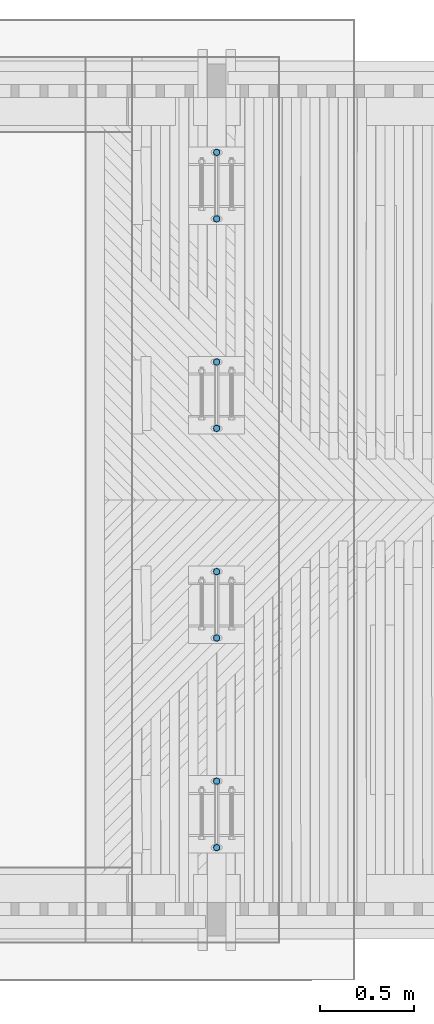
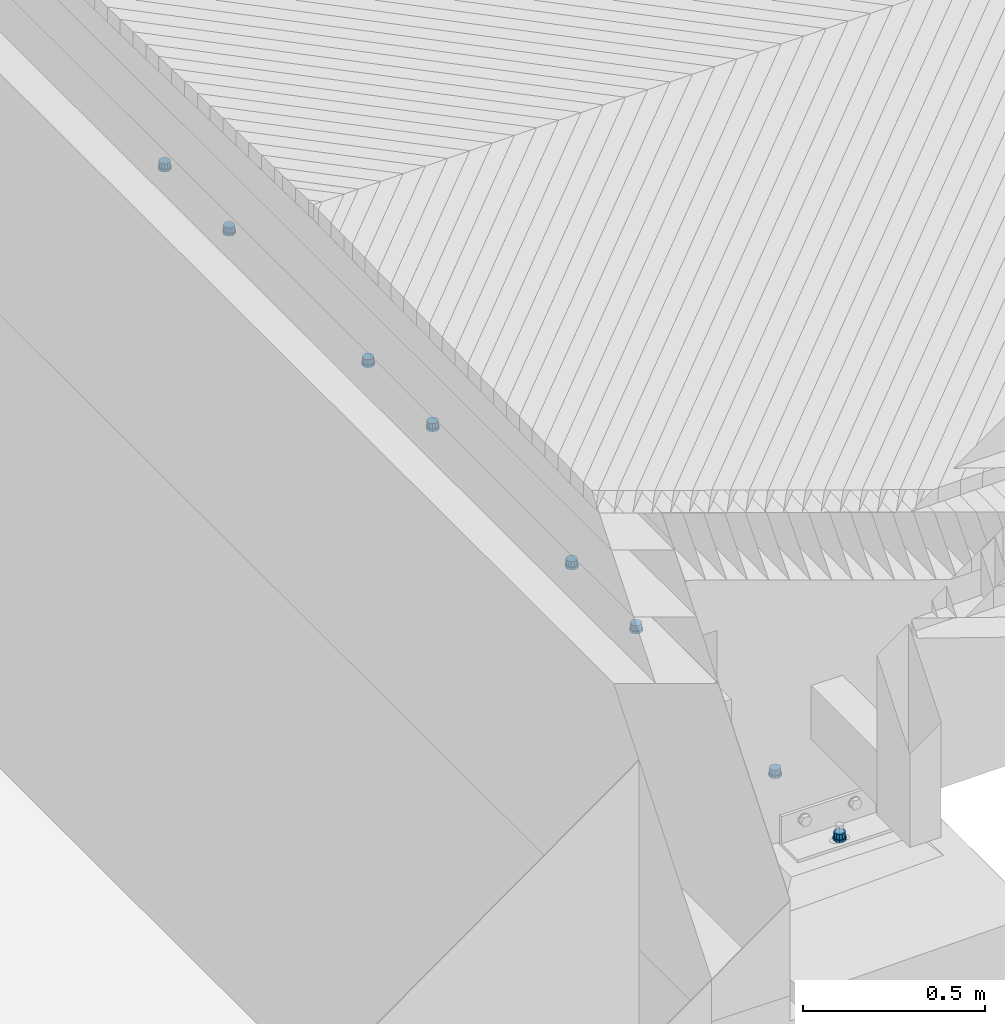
# One storey, part 14 of 52: 16 columns.
"""IFC2X3 building model written with IfcOpenShell, lengths in millimetres."""

from ifc_helpers import new_model, si_unit, frame, origin_with_axes, place, context, subcontext, project, spatial, faceted_brep, material, type_object, element, save


model = new_model("IFC2X3")

# Units and contexts
model_context = context("Model", 3, precision=1e-05, world=origin_with_axes())
body_context = subcontext(model_context, "Body", "Model", "MODEL_VIEW")
ifc_project = project(units=[si_unit("LENGTHUNIT", "METRE", prefix="MILLI"), si_unit("AREAUNIT", "SQUARE_METRE"), si_unit("VOLUMEUNIT", "CUBIC_METRE"), si_unit("MASSUNIT", "GRAM", prefix="KILO"), si_unit("TIMEUNIT", "SECOND"), si_unit("PLANEANGLEUNIT", "RADIAN"), si_unit("SOLIDANGLEUNIT", "STERADIAN"), si_unit("THERMODYNAMICTEMPERATUREUNIT", "DEGREE_CELSIUS"), si_unit("LUMINOUSINTENSITYUNIT", "LUMEN")], contexts=[model_context])

# Site, building, storey
site_placement = place(None, origin_with_axes())
site = spatial("IfcSite", under=ifc_project, at=site_placement, Name="Undefined", CompositionType="ELEMENT")
building_placement = place(site_placement, origin_with_axes())
building = spatial("IfcBuilding", under=site, at=building_placement, Name="Undefined", CompositionType="ELEMENT")
storey_placement = place(building_placement, origin_with_axes())
storey = spatial("IfcBuildingStorey", under=building, at=storey_placement, Name="Undefined", CompositionType="ELEMENT", Elevation=0.0)

# Columns
ifc_material = material(Name="STEEL/Steel_Undefined")
column_type_1 = type_object("IfcColumnType", Name="D38", PredefinedType="NOTDEFINED")
for number, where, z_axis, x_axis, name in (
    (1, (0.0, 2747.50000000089, 2007.32999999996), (0.0, 1.0, 0.0), (0.0, 0.0, 1.0), "BEAM"),
    (2, (0.0, 3102.50000000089, 2007.32999999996), (0.0, 1.0, 0.0), (0.0, 0.0, 1.0), "BEAM"),
    (3, (0.0, 3867.50000000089, 1985.32999999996), (0.0, 1.0, 0.0), (0.0, 0.0, 1.0), "BEAM"),
    (4, (0.0, 4222.50000000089, 1985.32999999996), (0.0, 1.0, 0.0), (0.0, 0.0, 1.0), "BEAM"),
    (5, (0.0, 1982.5, 2007.32999999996), (0.0, -1.0, 0.0), (0.0, 0.0, 1.0), "BEAM"),
    (6, (0.0, 1627.5, 2007.32999999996), (0.0, -1.0, 0.0), (0.0, 0.0, 1.0), "BEAM"),
    (7, (0.0, 862.5, 1985.32999999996), (0.0, -1.0, 0.0), (0.0, 0.0, 1.0), "BEAM"),
    (8, (0.0, 507.5, 1985.32999999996), (0.0, -1.0, 0.0), (0.0, 0.0, 1.0), "BEAM"),
):
    element("IfcColumn", number, at=place(storey_placement, frame(where, z_axis=z_axis, x_axis=x_axis)), inside=storey, type_object=column_type_1, material=ifc_material, Name=name, ObjectType="D38", context=body_context, shape_type="Brep", body=[
        faceted_brep([(0.0, -19.0, 0.0), (0.0, -16.4544826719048, -9.5), (8.0, -16.4544826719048, -9.5), (8.0, -19.0, 0.0), (0.0, -9.5, -16.4544826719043), (8.0, -9.5, -16.4544826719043), (0.0, 0.0, -19.0), (8.0, 0.0, -19.0), (0.0, 9.5, -16.4544826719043), (8.0, 9.5, -16.4544826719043), (0.0, 16.4544826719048, -9.5), (8.0, 16.4544826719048, -9.5), (0.0, 19.0, 0.0), (8.0, 19.0, 0.0), (0.0, 16.4544826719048, 9.5), (8.0, 16.4544826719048, 9.5), (0.0, 9.5, 16.4544826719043), (8.0, 9.5, 16.4544826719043), (0.0, 0.0, 19.0), (8.0, 0.0, 19.0), (0.0, -9.5, 16.4544826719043), (8.0, -9.5, 16.4544826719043), (0.0, -16.4544826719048, 9.5), (8.0, -16.4544826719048, 9.5)], [[[0, 1, 2, 3]], [[1, 4, 5, 2]], [[4, 6, 7, 5]], [[6, 8, 9, 7]], [[8, 10, 11, 9]], [[10, 12, 13, 11]], [[12, 14, 15, 13]], [[14, 16, 17, 15]], [[16, 18, 19, 17]], [[18, 20, 21, 19]], [[20, 22, 23, 21]], [[22, 0, 3, 23]], [[5, 7, 9, 11, 13, 15, 17, 19, 21, 23, 3, 2]], [[22, 20, 18, 16, 14, 12, 10, 8, 6, 4, 1, 0]]]),
    ])
column_type_2 = type_object("IfcColumnType", Name="D33", PredefinedType="NOTDEFINED")
for number, where, z_axis, x_axis, name in (
    (9, (0.0, 2747.50000000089, 2015.32999999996), (0.0, 1.0, 0.0), (0.0, 0.0, 1.0), "BEAM"),
    (10, (0.0, 3102.50000000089, 2015.32999999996), (0.0, 1.0, 0.0), (0.0, 0.0, 1.0), "BEAM"),
    (11, (0.0, 3867.50000000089, 1993.32999999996), (0.0, 1.0, 0.0), (0.0, 0.0, 1.0), "BEAM"),
    (12, (0.0, 4222.50000000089, 1993.32999999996), (0.0, 1.0, 0.0), (0.0, 0.0, 1.0), "BEAM"),
    (13, (0.0, 1982.5, 2015.32999999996), (0.0, -1.0, 0.0), (0.0, 0.0, 1.0), "BEAM"),
    (14, (0.0, 1627.5, 2015.32999999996), (0.0, -1.0, 0.0), (0.0, 0.0, 1.0), "BEAM"),
    (15, (0.0, 862.5, 1993.32999999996), (0.0, -1.0, 0.0), (0.0, 0.0, 1.0), "BEAM"),
    (16, (0.0, 507.5, 1993.32999999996), (0.0, -1.0, 0.0), (0.0, 0.0, 1.0), "BEAM"),
):
    element("IfcColumn", number, at=place(storey_placement, frame(where, z_axis=z_axis, x_axis=x_axis)), inside=storey, type_object=column_type_2, material=ifc_material, Name=name, ObjectType="D33", context=body_context, shape_type="Brep", body=[
        faceted_brep([(0.0, -16.5, 0.0), (0.0, -14.2894191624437, -8.25), (18.0, -14.2894191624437, -8.25), (18.0, -16.5, 0.0), (0.0, -8.25, -14.2894191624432), (18.0, -8.25, -14.2894191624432), (0.0, 0.0, -16.5), (18.0, 0.0, -16.5), (0.0, 8.25, -14.2894191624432), (18.0, 8.25, -14.2894191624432), (0.0, 14.2894191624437, -8.25), (18.0, 14.2894191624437, -8.25), (0.0, 16.5, 0.0), (18.0, 16.5, 0.0), (0.0, 14.2894191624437, 8.25), (18.0, 14.2894191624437, 8.25), (0.0, 8.25, 14.2894191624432), (18.0, 8.25, 14.2894191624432), (0.0, 0.0, 16.5), (18.0, 0.0, 16.5), (0.0, -8.25, 14.2894191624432), (18.0, -8.25, 14.2894191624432), (0.0, -14.2894191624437, 8.25), (18.0, -14.2894191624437, 8.25)], [[[0, 1, 2, 3]], [[1, 4, 5, 2]], [[4, 6, 7, 5]], [[6, 8, 9, 7]], [[8, 10, 11, 9]], [[10, 12, 13, 11]], [[12, 14, 15, 13]], [[14, 16, 17, 15]], [[16, 18, 19, 17]], [[18, 20, 21, 19]], [[20, 22, 23, 21]], [[22, 0, 3, 23]], [[5, 7, 9, 11, 13, 15, 17, 19, 21, 23, 3, 2]], [[22, 20, 18, 16, 14, 12, 10, 8, 6, 4, 1, 0]]]),
    ])

save(model, "model.ifc")
